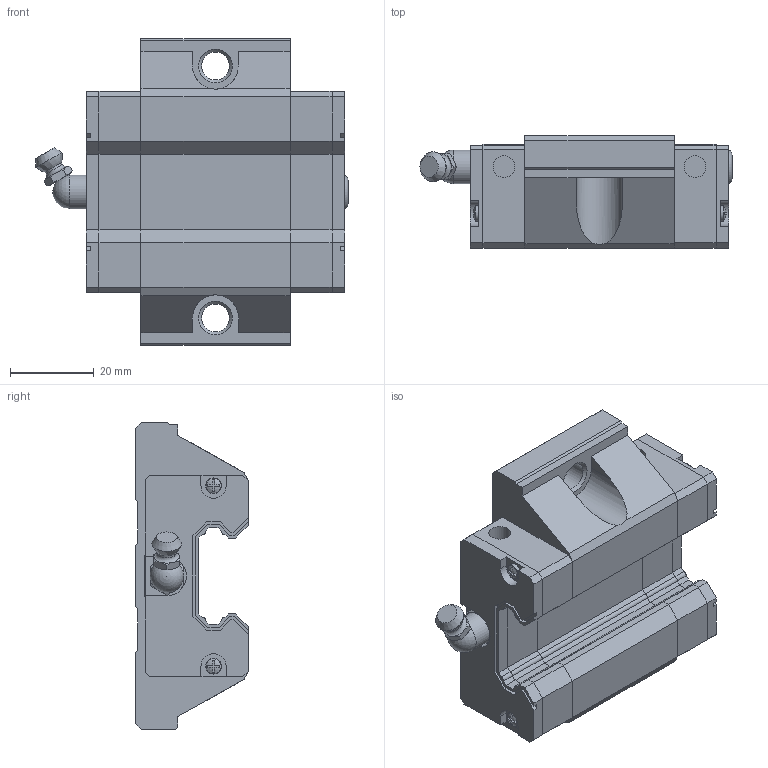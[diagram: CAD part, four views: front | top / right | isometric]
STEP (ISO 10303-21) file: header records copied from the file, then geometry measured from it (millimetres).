
FILE_DESCRIPTION(('FreeCAD Model'),'2;1');
FILE_NAME('Open CASCADE Shape Model','2024-12-05T11:32:26',('Author'),( ''),'Open CASCADE STEP processor 7.6','FreeCAD','Unknown');
FILE_SCHEMA(('AUTOMOTIVE_DESIGN { 1 0 10303 214 1 1 1 1 }'));
Length unit declared in the file: millimetre
Products named in the file (7): EW25SC; _GEW25SC_slider; _GES25_C; _GES25_P; _GH25_SCREW011; _GH25_BOLT002; _GH25-_G002
Assembly tree (11 placements, depth 2):
  EW25SC
    _GEW25SC_slider
    _GES25_C  x2
    _GES25_P  x2
    _GH25_SCREW011  x4
    _GH25_BOLT002
    _GH25-_G002
Bounding box: 74.3 x 26.8 x 73 mm (x, y, z)
Volume: 72902.3 mm3; surface area: 24614.1 mm2
Topology: 11 solids, 11 shells, 396 faces, 1062 edges, 698 vertices
Faces by surface type: plane 313, cylinder 51, cone 20, torus 6, sphere 5, bspline 1
Full cylindrical faces by diameter (mm): 2.2 x4, 3.725 x4, 4.5 x1, 5.2 x4, 6 x2, 6.5 x2, 6.647 x2, 7.4 x2, 8 x1, 8.2 x1
Entity records: 7601 total; most frequent: CARTESIAN_POINT 1483, ORIENTED_EDGE 1252, DIRECTION 1167, EDGE_CURVE 626, LINE 463, VECTOR 463, VERTEX_POINT 410, AXIS2_PLACEMENT_3D 352
